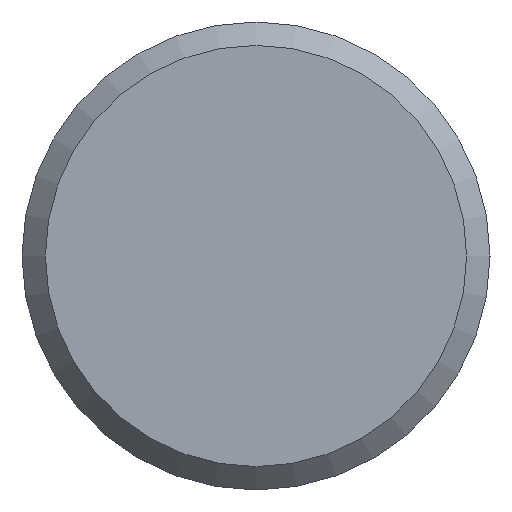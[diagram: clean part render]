
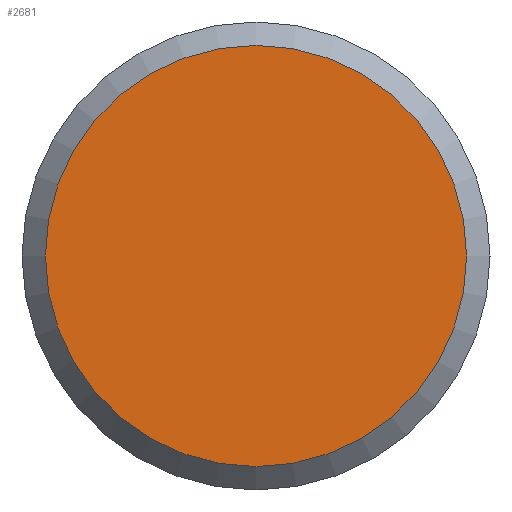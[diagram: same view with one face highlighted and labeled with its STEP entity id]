
A CAD part, left-side view. The second image highlights one B-rep face of the part: STEP entity #2681.
In plain terms, the highlighted planar face has unit normal (-1, 0, 0).
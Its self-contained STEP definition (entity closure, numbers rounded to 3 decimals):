
#942=PLANE('',#2456);
#997=ORIENTED_EDGE('',*,*,#1352,.F.);
#1172=CIRCLE('',#2455,4.5);
#1262=VERTEX_POINT('',#2183);
#1352=EDGE_CURVE('',#1262,#1262,#1172,.T.);
#1447=EDGE_LOOP('',(#997));
#1627=FACE_BOUND('',#1447,.T.);
#1816=DIRECTION('',(1.,0.,0.));
#1817=DIRECTION('',(0.,-4.5,0.));
#1818=DIRECTION('',(-1.,0.,0.));
#1819=DIRECTION('',(0.,1.,0.));
#2183=CARTESIAN_POINT('',(53.325,143.236,0.));
#2184=CARTESIAN_POINT('',(53.325,147.736,0.));
#2185=CARTESIAN_POINT('',(53.325,147.736,0.));
#2455=AXIS2_PLACEMENT_3D('',#2184,#1816,#1817);
#2456=AXIS2_PLACEMENT_3D('',#2185,#1818,#1819);
#2681=ADVANCED_FACE('',(#1627),#942,.T.);
